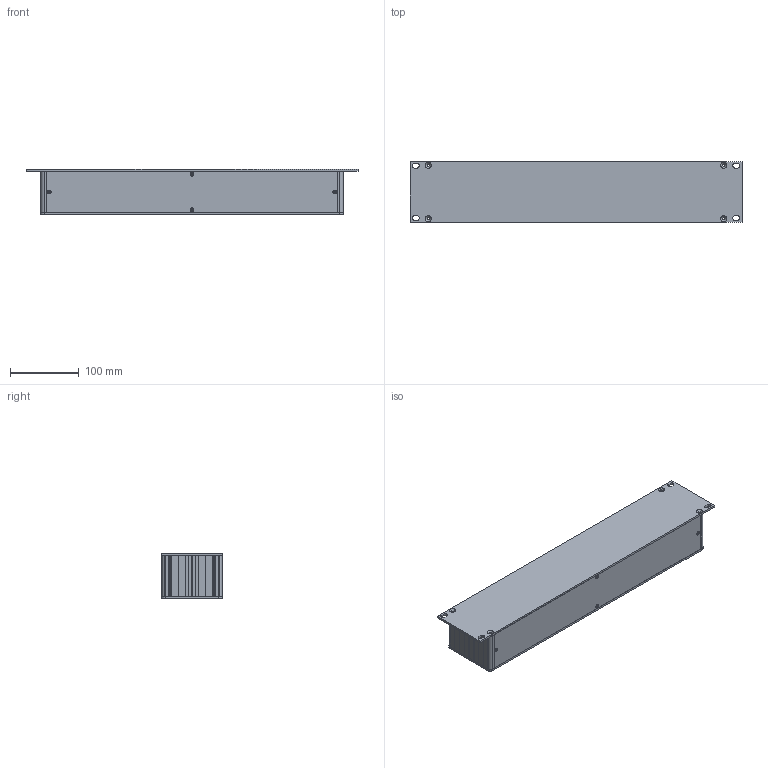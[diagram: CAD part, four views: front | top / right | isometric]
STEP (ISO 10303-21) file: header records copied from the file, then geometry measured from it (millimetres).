
FILE_DESCRIPTION (( 'STEP AP203' ), '1' );
FILE_NAME ('RM-120-6.STEP', '2025-01-27T07:12:51', ( '' ), ( '' ), 'SwSTEP 2.0', 'SolidWorks 2021', '' );
FILE_SCHEMA (( 'CONFIG_CONTROL_DESIGN' ));
Length unit declared in the file: millimetre
Products named in the file (6): RM-120-6; 2U_on_panel; ust_alt_panel_20 cm; ust_alt_panel_2; 2U_arka_panel; AP-220_14 cm
Assembly tree (6 placements, depth 2):
  RM-120-6
    2U_on_panel
    AP-220_14 cm  x2
    2U_arka_panel
    ust_alt_panel_20 cm
    ust_alt_panel_2
Bounding box: 482.6 x 88.1 x 66 mm (x, y, z)
Volume: 372230.7 mm3; surface area: 343114.4 mm2
Topology: 6 solids, 6 shells, 932 faces, 2744 edges, 1824 vertices
Faces by surface type: plane 560, cylinder 340, cone 32
Entity records: 18530 total; most frequent: CARTESIAN_POINT 3183, ORIENTED_EDGE 3124, DIRECTION 3088, EDGE_CURVE 1562, VECTOR 1110, LINE 1110, VERTEX_POINT 1036, AXIS2_PLACEMENT_3D 989
